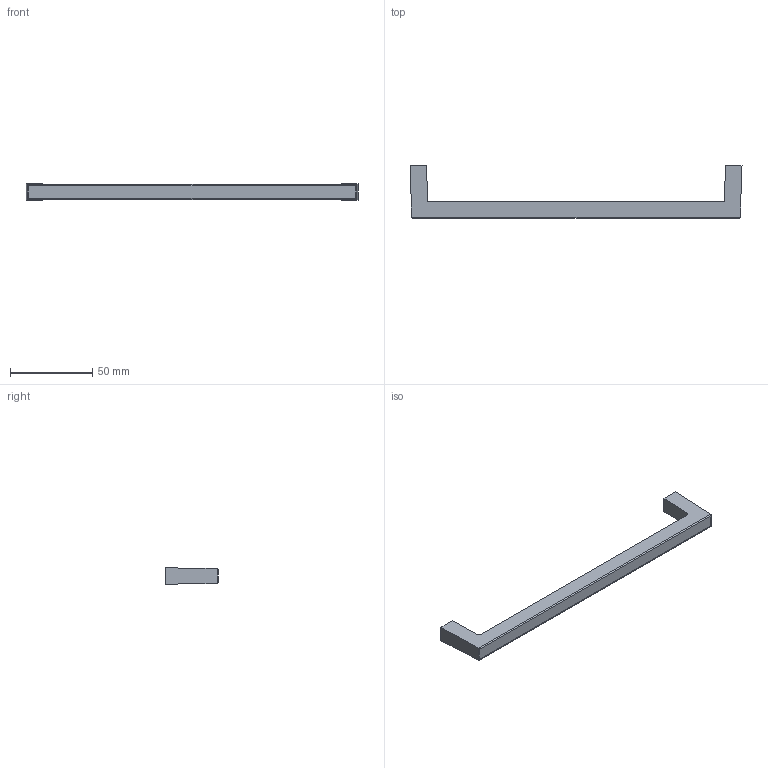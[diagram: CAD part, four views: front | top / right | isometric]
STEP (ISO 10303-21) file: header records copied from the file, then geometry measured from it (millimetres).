
FILE_DESCRIPTION( ( 'STEP AP214' ), '1' );
FILE_NAME( 'C:/Users/KOSH/Desktop/2021/Sunil/New folder/9112941.stp', '2021-11-15T13:05:02', ( '' ), ( '' ), ' ', 'PARTsolutions', ' ' );
FILE_SCHEMA( ( 'AUTOMOTIVE_DESIGN { 1 0 10303 214 1 1 1 1 }' ) );
Length unit declared in the file: millimetre
Products named in the file (1): _9112941
Bounding box: 202 x 32 x 10 mm (x, y, z)
Volume: 22114.5 mm3; surface area: 9619.4 mm2
Topology: 1 solids, 1 shells, 20 faces, 48 edges, 32 vertices
Faces by surface type: plane 12, cylinder 8
Full cylindrical faces by diameter (mm): 4 x2
Entity records: 770 total; most frequent: CARTESIAN_POINT 127, DIRECTION 96, ORIENTED_EDGE 92, EDGE_CURVE 46, AXIS2_PLACEMENT_3D 33, VERTEX_POINT 32, LINE 30, VECTOR 30
